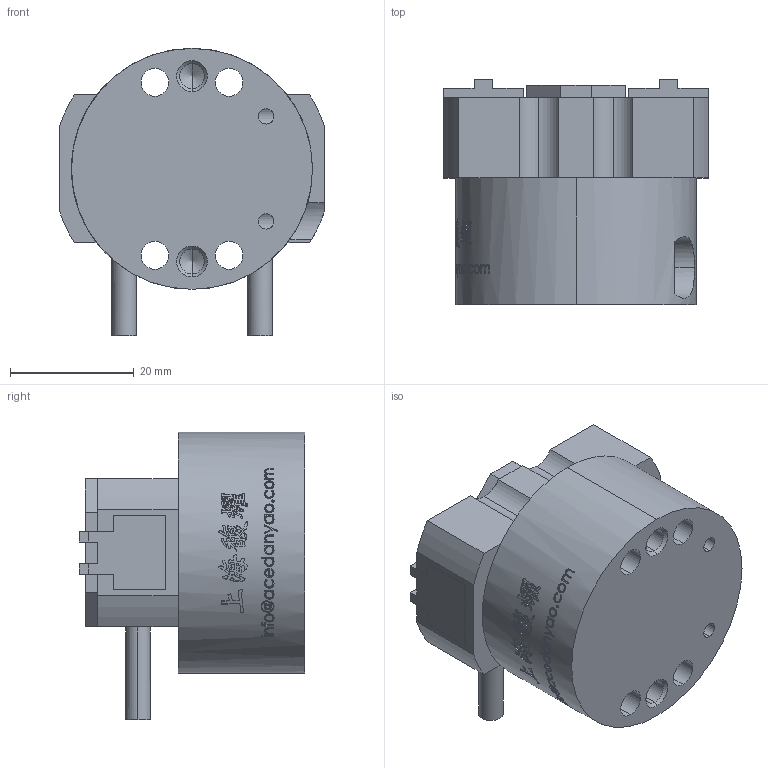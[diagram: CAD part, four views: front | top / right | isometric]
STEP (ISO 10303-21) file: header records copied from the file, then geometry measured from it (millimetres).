
FILE_DESCRIPTION (( 'STEP AP203' ), '1' );
FILE_NAME ('OPM-040-C1-原始檔-組合-W106.04.18.STEP', '2017-04-18T03:34:16', ( 'DanyaoCAD' ), ( '' ), 'SwSTEP 2.0', 'SolidWorks 2016', '' );
FILE_SCHEMA (( 'CONFIG_CONTROL_DESIGN' ));
Products named in the file (3): Griffa; Corpo; OPM-040-C1-原始檔-組合-W106.04.18
Assembly tree (3 placements, depth 2):
  OPM-040-C1-原始檔-組合-W106.04.18
    Griffa  x2
    Corpo
Bounding box: 43 x 36.5 x 46.5 mm (x, y, z)
Volume: 35976.8 mm3; surface area: 13145.5 mm2
Topology: 3 solids, 3 shells, 962 faces, 2687 edges, 1772 vertices
Faces by surface type: bspline 665, plane 180, cylinder 97, cone 20
Entity records: 73207 total; most frequent: CARTESIAN_POINT 54881, ORIENTED_EDGE 5180, EDGE_CURVE 2590, B_SPLINE_CURVE_WITH_KNOTS 2038, VERTEX_POINT 1716, DIRECTION 1257, EDGE_LOOP 994, FACE_OUTER_BOUND 929
